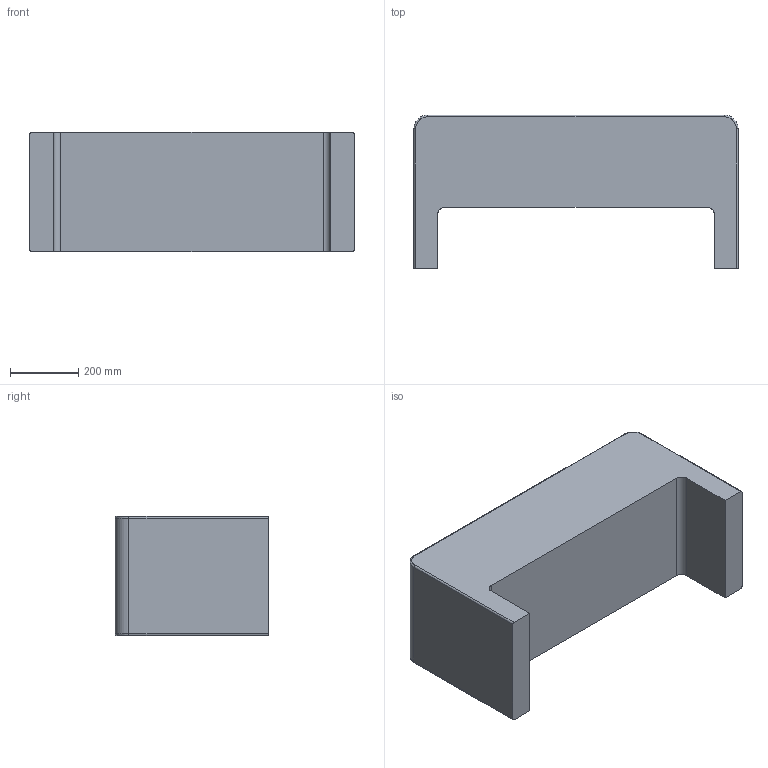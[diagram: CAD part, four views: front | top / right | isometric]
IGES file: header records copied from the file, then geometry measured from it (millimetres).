
Start section: SolidWorks IGES file using NURBS representation for surfaces
Global section: file name: G:\VICCARBE\PRODUCTOS\FAMILIAS 2D - 3D (PRODUCTOS VICCARBE)\3D (IGES + STL + DWG)\03-DAVOS\01-IGES\VICCARBE_Davos_Bench\VICCARBE_Davos_Bench95.IGS; native system: SolidWorks 2009; preprocessor: SolidWorks 2009; author: RUBEN; date: 110830.130809; units: millimetre
Bounding box: 950 x 450 x 350 mm (x, y, z)
Surface area: 1642517.9 mm2 (no closed solid volume)
Topology: 0 solids, 0 shells, 24 faces, 200 edges, 200 vertices
Faces by surface type: bspline 24
